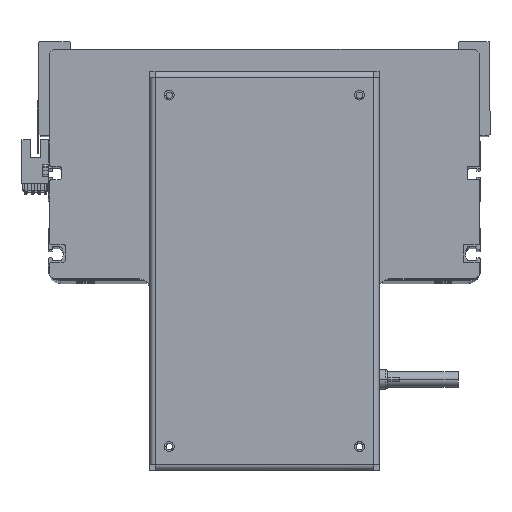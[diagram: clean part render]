
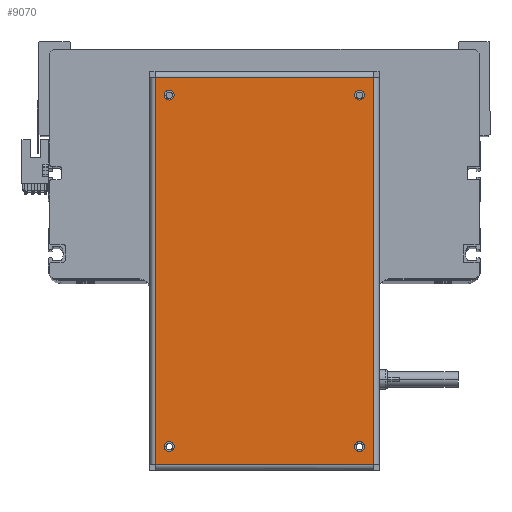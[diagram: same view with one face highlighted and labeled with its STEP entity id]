
A CAD part, top view. The second image highlights one B-rep face of the part: STEP entity #9070.
In plain terms, the highlighted planar face has unit normal (0, 0, 1).
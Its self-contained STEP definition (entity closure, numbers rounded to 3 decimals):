
#9 = EDGE_LOOP ( 'NONE', ( #9183, #36057 ) ) ;
#994 = DIRECTION ( 'NONE',  ( 0., 0., -1. ) ) ;
#1037 = CIRCLE ( 'NONE', #9177, 2.5 ) ;
#1114 = VERTEX_POINT ( 'NONE', #7940 ) ;
#1116 = VERTEX_POINT ( 'NONE', #38773 ) ;
#1804 = CARTESIAN_POINT ( 'NONE',  ( -98.65, -55.6, 0. ) ) ;
#2741 = CARTESIAN_POINT ( 'NONE',  ( 98.75, 55.6, 0. ) ) ;
#2936 = VERTEX_POINT ( 'NONE', #22278 ) ;
#3828 = EDGE_CURVE ( 'NONE', #1116, #2936, #1037, .T. ) ;
#3856 = AXIS2_PLACEMENT_3D ( 'NONE', #28547, #31686, #35104 ) ;
#4513 = VERTEX_POINT ( 'NONE', #11714 ) ;
#4598 = CIRCLE ( 'NONE', #29783, 2.5 ) ;
#5142 = CARTESIAN_POINT ( 'NONE',  ( 89.55, -48.5, 0. ) ) ;
#5145 = FACE_BOUND ( 'NONE', #29428, .T. ) ;
#5262 = VECTOR ( 'NONE', #32174, 1000. ) ;
#5854 = DIRECTION ( 'NONE',  ( -1., 0., 0. ) ) ;
#6241 = CIRCLE ( 'NONE', #3856, 2.5 ) ;
#6517 = VERTEX_POINT ( 'NONE', #17661 ) ;
#7019 = EDGE_LOOP ( 'NONE', ( #18811, #9099, #13465, #29878 ) ) ;
#7051 = CARTESIAN_POINT ( 'NONE',  ( 98.65, -55.6, 0. ) ) ;
#7940 = CARTESIAN_POINT ( 'NONE',  ( 98.65, 55.6, 0. ) ) ;
#8726 = PLANE ( 'NONE',  #34203 ) ;
#9070 = ADVANCED_FACE ( 'NONE', ( #5145, #27364, #30291, #28308, #30749 ), #8726, .F. ) ;
#9099 = ORIENTED_EDGE ( 'NONE', *, *, #10836, .T. ) ;
#9177 = AXIS2_PLACEMENT_3D ( 'NONE', #28085, #21783, #15723 ) ;
#9183 = ORIENTED_EDGE ( 'NONE', *, *, #27140, .F. ) ;
#9660 = CARTESIAN_POINT ( 'NONE',  ( -89.55, -48.5, 0. ) ) ;
#10336 = ORIENTED_EDGE ( 'NONE', *, *, #31739, .F. ) ;
#10393 = VECTOR ( 'NONE', #30353, 1000. ) ;
#10541 = EDGE_CURVE ( 'NONE', #13058, #26113, #4598, .T. ) ;
#10836 = EDGE_CURVE ( 'NONE', #39661, #4513, #25796, .T. ) ;
#10865 = CARTESIAN_POINT ( 'NONE',  ( -98.65, 55.6, 0. ) ) ;
#11203 = VERTEX_POINT ( 'NONE', #22884 ) ;
#11470 = ORIENTED_EDGE ( 'NONE', *, *, #28505, .F. ) ;
#11714 = CARTESIAN_POINT ( 'NONE',  ( 98.65, -55.6, 0. ) ) ;
#12783 = CARTESIAN_POINT ( 'NONE',  ( 87.05, 48.5, 0. ) ) ;
#12905 = DIRECTION ( 'NONE',  ( 0., 0., 1. ) ) ;
#13058 = VERTEX_POINT ( 'NONE', #12783 ) ;
#13155 = VECTOR ( 'NONE', #33347, 1000. ) ;
#13465 = ORIENTED_EDGE ( 'NONE', *, *, #35840, .T. ) ;
#13525 = LINE ( 'NONE', #7051, #5262 ) ;
#13800 = CARTESIAN_POINT ( 'NONE',  ( 89.55, 48.5, 0. ) ) ;
#13902 = AXIS2_PLACEMENT_3D ( 'NONE', #35490, #20744, #23493 ) ;
#13935 = CIRCLE ( 'NONE', #24676, 2.5 ) ;
#14384 = DIRECTION ( 'NONE',  ( 1., 0., 0. ) ) ;
#14511 = CARTESIAN_POINT ( 'NONE',  ( 92.05, 48.5, 0. ) ) ;
#14637 = EDGE_CURVE ( 'NONE', #1114, #38640, #37488, .T. ) ;
#15723 = DIRECTION ( 'NONE',  ( 1., 0., 0. ) ) ;
#15882 = DIRECTION ( 'NONE',  ( 1., 0., 0. ) ) ;
#16202 = ORIENTED_EDGE ( 'NONE', *, *, #10541, .F. ) ;
#16499 = DIRECTION ( 'NONE',  ( 1., 0., 0. ) ) ;
#16508 = DIRECTION ( 'NONE',  ( 1., 0., 0. ) ) ;
#16819 = EDGE_CURVE ( 'NONE', #38640, #39661, #29042, .T. ) ;
#17183 = CARTESIAN_POINT ( 'NONE',  ( 92.05, -48.5, 0. ) ) ;
#17428 = ORIENTED_EDGE ( 'NONE', *, *, #34078, .F. ) ;
#17661 = CARTESIAN_POINT ( 'NONE',  ( -87.05, -48.5, 0. ) ) ;
#18811 = ORIENTED_EDGE ( 'NONE', *, *, #16819, .T. ) ;
#18956 = EDGE_LOOP ( 'NONE', ( #10336, #25077 ) ) ;
#19111 = CARTESIAN_POINT ( 'NONE',  ( 89.55, 48.5, 0. ) ) ;
#20086 = CIRCLE ( 'NONE', #20702, 2.5 ) ;
#20702 = AXIS2_PLACEMENT_3D ( 'NONE', #38647, #31980, #16499 ) ;
#20744 = DIRECTION ( 'NONE',  ( 0., 0., 1. ) ) ;
#20924 = CARTESIAN_POINT ( 'NONE',  ( -98.75, -55.6, 0. ) ) ;
#21783 = DIRECTION ( 'NONE',  ( 0., 0., 1. ) ) ;
#22278 = CARTESIAN_POINT ( 'NONE',  ( -87.05, 48.5, 0. ) ) ;
#22818 = EDGE_CURVE ( 'NONE', #11203, #27498, #6241, .T. ) ;
#22847 = VERTEX_POINT ( 'NONE', #38761 ) ;
#22884 = CARTESIAN_POINT ( 'NONE',  ( 87.05, -48.5, 0. ) ) ;
#23493 = DIRECTION ( 'NONE',  ( 1., 0., 0. ) ) ;
#24341 = ORIENTED_EDGE ( 'NONE', *, *, #26754, .F. ) ;
#24676 = AXIS2_PLACEMENT_3D ( 'NONE', #5142, #39100, #14384 ) ;
#25077 = ORIENTED_EDGE ( 'NONE', *, *, #3828, .F. ) ;
#25796 = LINE ( 'NONE', #20924, #10393 ) ;
#26113 = VERTEX_POINT ( 'NONE', #14511 ) ;
#26754 = EDGE_CURVE ( 'NONE', #26113, #13058, #33792, .T. ) ;
#26954 = CARTESIAN_POINT ( 'NONE',  ( -98.65, 55.6, 0. ) ) ;
#27140 = EDGE_CURVE ( 'NONE', #27498, #11203, #13935, .T. ) ;
#27364 = FACE_BOUND ( 'NONE', #18956, .T. ) ;
#27498 = VERTEX_POINT ( 'NONE', #17183 ) ;
#28085 = CARTESIAN_POINT ( 'NONE',  ( -89.55, 48.5, 0. ) ) ;
#28308 = FACE_BOUND ( 'NONE', #30234, .T. ) ;
#28505 = EDGE_CURVE ( 'NONE', #22847, #6517, #36987, .T. ) ;
#28547 = CARTESIAN_POINT ( 'NONE',  ( 89.55, -48.5, 0. ) ) ;
#29042 = LINE ( 'NONE', #26954, #13155 ) ;
#29428 = EDGE_LOOP ( 'NONE', ( #17428, #11470 ) ) ;
#29783 = AXIS2_PLACEMENT_3D ( 'NONE', #13800, #35410, #16508 ) ;
#29878 = ORIENTED_EDGE ( 'NONE', *, *, #14637, .T. ) ;
#30234 = EDGE_LOOP ( 'NONE', ( #24341, #16202 ) ) ;
#30291 = FACE_BOUND ( 'NONE', #9, .T. ) ;
#30353 = DIRECTION ( 'NONE',  ( 1., 0., 0. ) ) ;
#30749 = FACE_OUTER_BOUND ( 'NONE', #7019, .T. ) ;
#31072 = DIRECTION ( 'NONE',  ( 1., 0., 0. ) ) ;
#31686 = DIRECTION ( 'NONE',  ( 0., 0., 1. ) ) ;
#31739 = EDGE_CURVE ( 'NONE', #2936, #1116, #20086, .T. ) ;
#31980 = DIRECTION ( 'NONE',  ( 0., 0., 1. ) ) ;
#32174 = DIRECTION ( 'NONE',  ( 0., 1., 0. ) ) ;
#33347 = DIRECTION ( 'NONE',  ( 0., -1., 0. ) ) ;
#33447 = CARTESIAN_POINT ( 'NONE',  ( 98.75, 58.5, 0. ) ) ;
#33524 = AXIS2_PLACEMENT_3D ( 'NONE', #19111, #37613, #31072 ) ;
#33792 = CIRCLE ( 'NONE', #33524, 2.5 ) ;
#33838 = DIRECTION ( 'NONE',  ( -1., 0., 0. ) ) ;
#33925 = CIRCLE ( 'NONE', #34507, 2.5 ) ;
#34078 = EDGE_CURVE ( 'NONE', #6517, #22847, #33925, .T. ) ;
#34203 = AXIS2_PLACEMENT_3D ( 'NONE', #33447, #994, #33838 ) ;
#34507 = AXIS2_PLACEMENT_3D ( 'NONE', #9660, #12905, #15882 ) ;
#35104 = DIRECTION ( 'NONE',  ( 1., 0., 0. ) ) ;
#35410 = DIRECTION ( 'NONE',  ( 0., 0., 1. ) ) ;
#35490 = CARTESIAN_POINT ( 'NONE',  ( -89.55, -48.5, 0. ) ) ;
#35840 = EDGE_CURVE ( 'NONE', #4513, #1114, #13525, .T. ) ;
#36057 = ORIENTED_EDGE ( 'NONE', *, *, #22818, .F. ) ;
#36987 = CIRCLE ( 'NONE', #13902, 2.5 ) ;
#37488 = LINE ( 'NONE', #2741, #38001 ) ;
#37613 = DIRECTION ( 'NONE',  ( 0., 0., 1. ) ) ;
#38001 = VECTOR ( 'NONE', #5854, 1000. ) ;
#38640 = VERTEX_POINT ( 'NONE', #10865 ) ;
#38647 = CARTESIAN_POINT ( 'NONE',  ( -89.55, 48.5, 0. ) ) ;
#38761 = CARTESIAN_POINT ( 'NONE',  ( -92.05, -48.5, 0. ) ) ;
#38773 = CARTESIAN_POINT ( 'NONE',  ( -92.05, 48.5, 0. ) ) ;
#39100 = DIRECTION ( 'NONE',  ( 0., 0., 1. ) ) ;
#39661 = VERTEX_POINT ( 'NONE', #1804 ) ;
